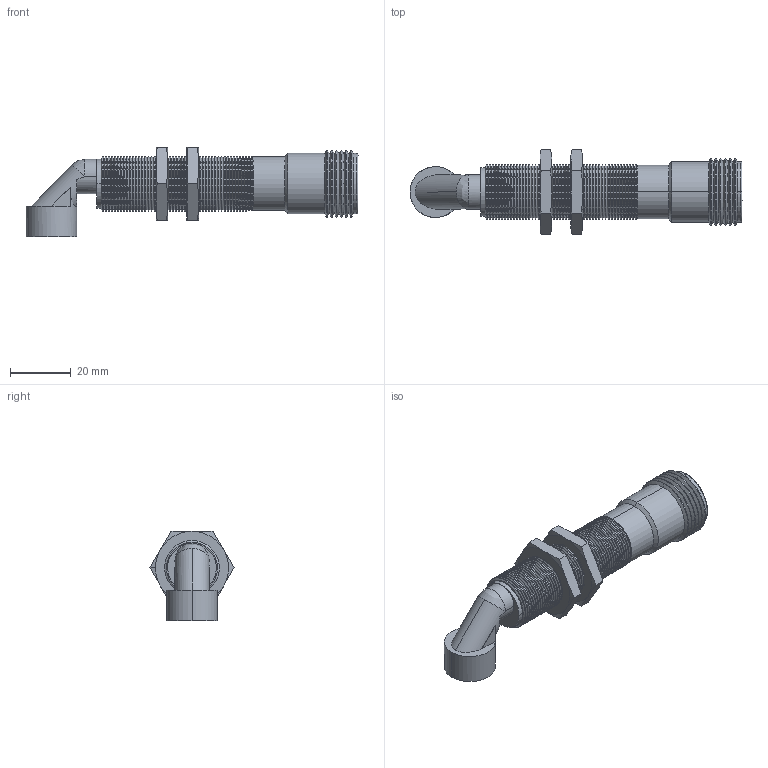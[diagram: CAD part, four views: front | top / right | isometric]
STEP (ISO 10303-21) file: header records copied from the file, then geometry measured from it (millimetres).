
FILE_DESCRIPTION (( 'STEP AP203' ), '1' );
FILE_NAME ('90-29417-085.STEP', '2016-05-26T13:03:55', ( 'Sam' ), ( 'Spade' ), 'SwSTEP 2.0', 'SolidWorks 2002296', '' );
FILE_SCHEMA (( 'CONFIG_CONTROL_DESIGN' ));
Length unit declared in the file: inch
Products named in the file (10): 90-29417-085; Imported14; Imported13; Imported12; Imported19; Imported18; Imported15; Imported20; Imported16; Imported17
Assembly tree (9 placements, depth 2):
  90-29417-085
    Imported14
    Imported16
    Imported20
    Imported18
    Imported19
    Imported15
    Imported13
    Imported17
    Imported12
Bounding box: 109.1 x 27.69 x 29.39 mm (x, y, z)
Volume: 28610.1 mm3; surface area: 15136.2 mm2
Topology: 9 solids, 9 shells, 604 faces, 1248 edges, 665 vertices
Faces by surface type: cone 296, cylinder 241, plane 57, bspline 10
Entity records: 16851 total; most frequent: DIRECTION 3005, CARTESIAN_POINT 2941, ORIENTED_EDGE 2484, EDGE_CURVE 1242, AXIS2_PLACEMENT_3D 1231, VERTEX_POINT 665, CIRCLE 625, EDGE_LOOP 617
